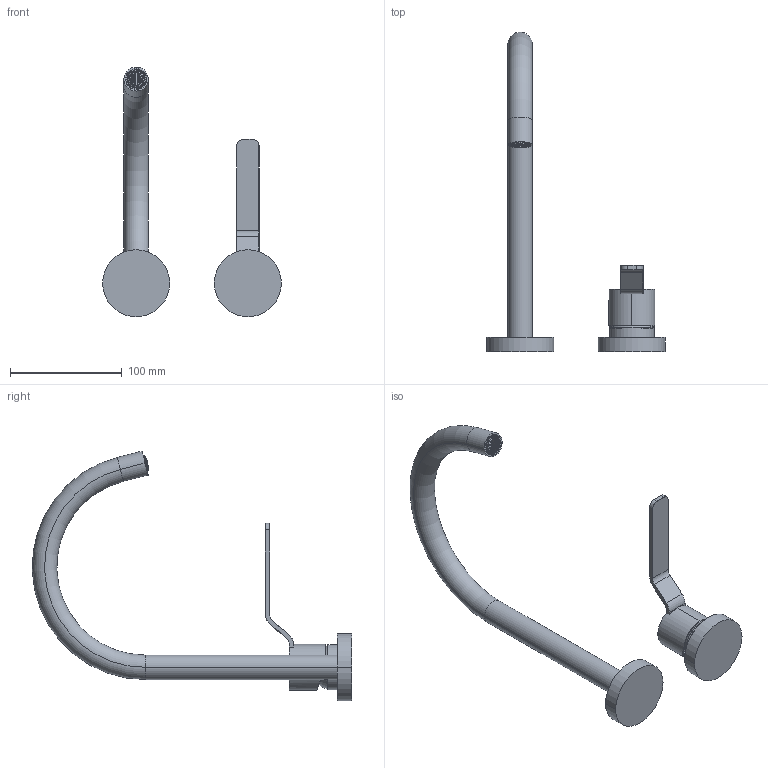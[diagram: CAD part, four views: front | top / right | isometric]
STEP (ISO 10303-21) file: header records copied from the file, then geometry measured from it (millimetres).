
FILE_DESCRIPTION((''),'2;1');
FILE_NAME('28930Y607W000000_SW0001','2023-02-10T13:32:39',('matteo.follador'),(''),'CREO PARAMETRIC BY PTC INC, 2020281','CREO PARAMETRIC BY PTC INC, 2020281','');
FILE_SCHEMA(('AUTOMOTIVE_DESIGN { 1 0 10303 214 1 1 1 1 }'));
Length unit declared in the file: millimetre
Products named in the file (1): 28930Y607W000000_SW0001
Bounding box: 160 x 285.92 x 223.5 mm (x, y, z)
Volume: 193282.2 mm3; surface area: 92090.4 mm2
Topology: 3 solids, 3 shells, 445 faces, 1117 edges, 716 vertices
Faces by surface type: plane 279, cylinder 92, torus 38, cone 20, bspline 10, sphere 6
Entity records: 16880 total; most frequent: CARTESIAN_POINT 4597, DIRECTION 2445, ORIENTED_EDGE 2230, EDGE_CURVE 1115, AXIS2_PLACEMENT_3D 929, VERTEX_POINT 716, VECTOR 584, LINE 584
